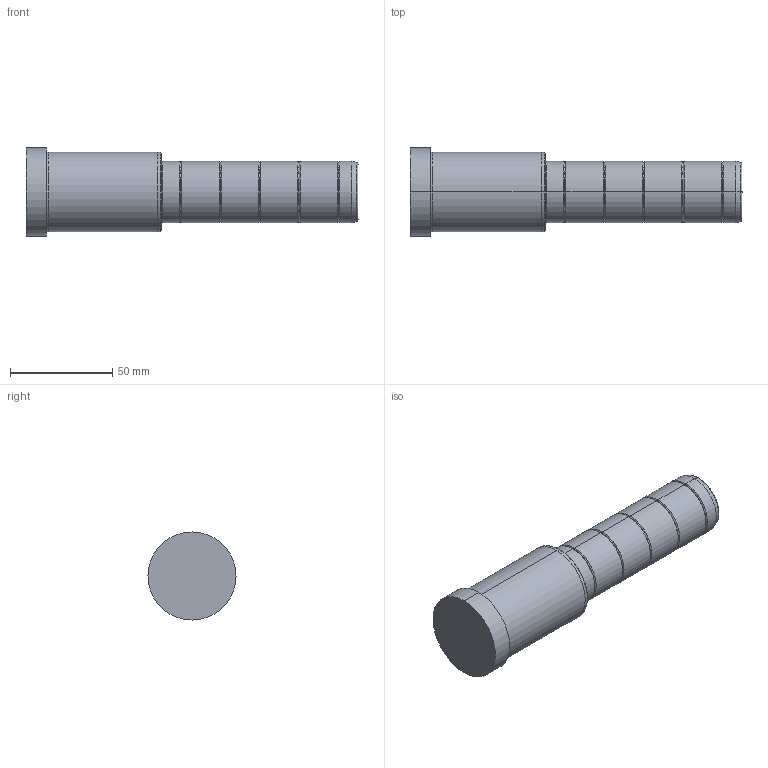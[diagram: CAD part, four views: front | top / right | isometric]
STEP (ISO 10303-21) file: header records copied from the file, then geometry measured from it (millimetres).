
FILE_DESCRIPTION( ( 'STEP AP203' ), '1' );
FILE_NAME( 'C:/Projects/D02 - 30x66x96.step', '2002-12-31T22:46:48', ( ' ' ), ( ' ' ), 'XStep 1.0', ' ', ' ' );
FILE_SCHEMA( ( 'CONFIG_CONTROL_DESIGN' ) );
Length unit declared in the file: metre
Products named in the file (1): 1
Bounding box: 162 x 43 x 43 mm (x, y, z)
Volume: 149028.3 mm3; surface area: 20275 mm2
Topology: 1 solids, 1 shells, 54 faces, 106 edges, 58 vertices
Faces by surface type: bspline 30, revolution 24
Entity records: 1721 total; most frequent: CARTESIAN_POINT 717, ORIENTED_EDGE 212, DIRECTION 166, EDGE_CURVE 106, AXIS2_PLACEMENT_3D 59, EDGE_LOOP 58, VERTEX_POINT 58, CIRCLE 58
